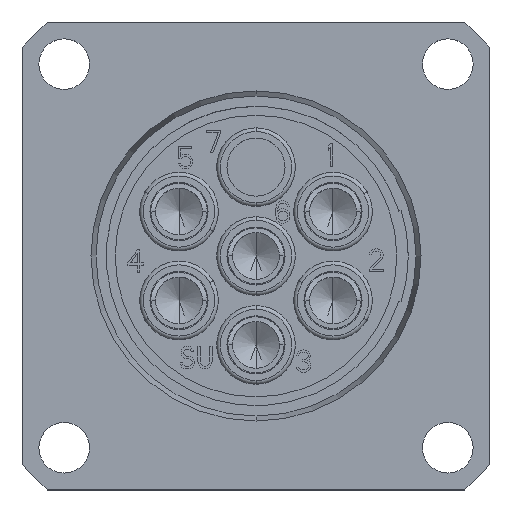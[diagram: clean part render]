
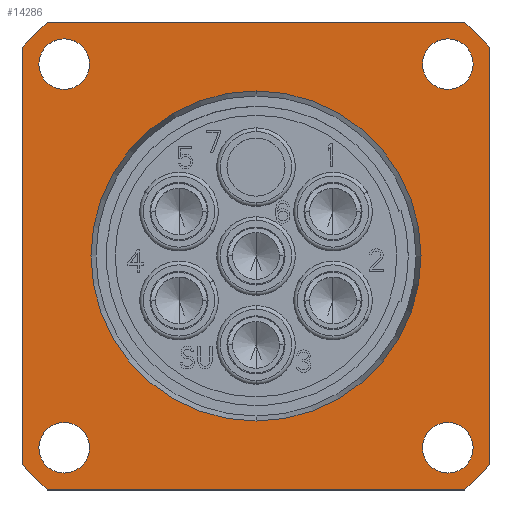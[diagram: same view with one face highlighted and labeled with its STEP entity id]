
A CAD part, top view. The second image highlights one B-rep face of the part: STEP entity #14286.
In plain terms, the highlighted planar face has unit normal (0, 0, 1).
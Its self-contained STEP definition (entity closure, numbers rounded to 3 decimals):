
#47=CARTESIAN_POINT('',(0.,0.,8.2));
#48=DIRECTION('',(0.,0.,-1.));
#49=DIRECTION('',(0.,-1.,0.));
#50=AXIS2_PLACEMENT_3D('',#47,#48,#49);
#57=DIRECTION('',(-1.,0.,0.));
#58=VECTOR('',#57,22.299);
#59=CARTESIAN_POINT('',(11.15,12.5,8.2));
#60=LINE('',#59,#58);
#61=DIRECTION('',(0.,1.,0.));
#62=VECTOR('',#61,22.299);
#63=CARTESIAN_POINT('',(12.5,-11.15,8.2));
#64=LINE('',#63,#62);
#65=DIRECTION('',(1.,0.,0.));
#66=VECTOR('',#65,22.299);
#67=CARTESIAN_POINT('',(-11.15,-12.5,8.2));
#68=LINE('',#67,#66);
#69=DIRECTION('',(0.,-1.,0.));
#70=VECTOR('',#69,22.299);
#71=CARTESIAN_POINT('',(-12.5,11.15,8.2));
#72=LINE('',#71,#70);
#73=CARTESIAN_POINT('',(10.25,10.25,8.2));
#74=DIRECTION('',(0.,0.,1.));
#75=DIRECTION('',(1.,0.,0.));
#76=AXIS2_PLACEMENT_3D('',#73,#74,#75);
#78=CARTESIAN_POINT('',(10.25,10.25,8.2));
#79=DIRECTION('',(0.,0.,1.));
#80=DIRECTION('',(-1.,0.,0.));
#81=AXIS2_PLACEMENT_3D('',#78,#79,#80);
#83=CARTESIAN_POINT('',(-10.25,10.25,8.2));
#84=DIRECTION('',(0.,0.,1.));
#85=DIRECTION('',(1.,0.,0.));
#86=AXIS2_PLACEMENT_3D('',#83,#84,#85);
#88=CARTESIAN_POINT('',(-10.25,10.25,8.2));
#89=DIRECTION('',(0.,0.,1.));
#90=DIRECTION('',(-1.,0.,0.));
#91=AXIS2_PLACEMENT_3D('',#88,#89,#90);
#93=CARTESIAN_POINT('',(10.25,-10.25,8.2));
#94=DIRECTION('',(0.,0.,1.));
#95=DIRECTION('',(1.,0.,0.));
#96=AXIS2_PLACEMENT_3D('',#93,#94,#95);
#98=CARTESIAN_POINT('',(10.25,-10.25,8.2));
#99=DIRECTION('',(0.,0.,1.));
#100=DIRECTION('',(-1.,0.,0.));
#101=AXIS2_PLACEMENT_3D('',#98,#99,#100);
#103=CARTESIAN_POINT('',(-10.25,-10.25,8.2));
#104=DIRECTION('',(0.,0.,1.));
#105=DIRECTION('',(1.,0.,0.));
#106=AXIS2_PLACEMENT_3D('',#103,#104,#105);
#108=CARTESIAN_POINT('',(-10.25,-10.25,8.2));
#109=DIRECTION('',(0.,0.,1.));
#110=DIRECTION('',(-1.,0.,0.));
#111=AXIS2_PLACEMENT_3D('',#108,#109,#110);
#121=CARTESIAN_POINT('',(0.,0.,8.2));
#122=DIRECTION('',(0.,0.,-1.));
#123=DIRECTION('',(-0.746,0.666,0.));
#124=AXIS2_PLACEMENT_3D('',#121,#122,#123);
#134=CARTESIAN_POINT('',(0.,0.,8.2));
#135=DIRECTION('',(0.,0.,-1.));
#136=DIRECTION('',(-0.666,-0.746,0.));
#137=AXIS2_PLACEMENT_3D('',#134,#135,#136);
#147=CARTESIAN_POINT('',(0.,0.,8.2));
#148=DIRECTION('',(0.,0.,1.));
#149=DIRECTION('',(0.666,-0.746,0.));
#150=AXIS2_PLACEMENT_3D('',#147,#148,#149);
#160=CARTESIAN_POINT('',(0.,0.,8.2));
#161=DIRECTION('',(0.,0.,1.));
#162=DIRECTION('',(0.746,0.666,0.));
#163=AXIS2_PLACEMENT_3D('',#160,#161,#162);
#5422=CARTESIAN_POINT('',(0.,0.,8.2));
#5423=DIRECTION('',(0.,0.,1.));
#5424=DIRECTION('',(0.,-1.,0.));
#5425=AXIS2_PLACEMENT_3D('',#5422,#5423,#5424);
#11059=CARTESIAN_POINT('',(11.15,12.5,8.2));
#11060=CARTESIAN_POINT('',(-11.15,12.5,8.2));
#11061=VERTEX_POINT('',#11059);
#11062=VERTEX_POINT('',#11060);
#11063=CARTESIAN_POINT('',(-12.5,11.15,8.2));
#11064=CARTESIAN_POINT('',(-12.5,-11.15,8.2));
#11065=VERTEX_POINT('',#11063);
#11066=VERTEX_POINT('',#11064);
#11067=CARTESIAN_POINT('',(-11.15,-12.5,8.2));
#11068=CARTESIAN_POINT('',(11.15,-12.5,8.2));
#11069=VERTEX_POINT('',#11067);
#11070=VERTEX_POINT('',#11068);
#11071=CARTESIAN_POINT('',(12.5,-11.15,8.2));
#11072=CARTESIAN_POINT('',(12.5,11.15,8.2));
#11073=VERTEX_POINT('',#11071);
#11074=VERTEX_POINT('',#11072);
#11075=CARTESIAN_POINT('',(11.6,10.25,8.2));
#11076=CARTESIAN_POINT('',(8.9,10.25,8.2));
#11077=VERTEX_POINT('',#11075);
#11078=VERTEX_POINT('',#11076);
#11083=CARTESIAN_POINT('',(-8.9,10.25,8.2));
#11084=CARTESIAN_POINT('',(-11.6,10.25,8.2));
#11085=VERTEX_POINT('',#11083);
#11086=VERTEX_POINT('',#11084);
#11091=CARTESIAN_POINT('',(11.6,-10.25,8.2));
#11092=CARTESIAN_POINT('',(8.9,-10.25,8.2));
#11093=VERTEX_POINT('',#11091);
#11094=VERTEX_POINT('',#11092);
#11099=CARTESIAN_POINT('',(-8.9,-10.25,8.2));
#11100=CARTESIAN_POINT('',(-11.6,-10.25,8.2));
#11101=VERTEX_POINT('',#11099);
#11102=VERTEX_POINT('',#11100);
#11127=CARTESIAN_POINT('',(0.,-8.818,8.2));
#11128=CARTESIAN_POINT('',(0.,8.818,8.2));
#11129=VERTEX_POINT('',#11127);
#11130=VERTEX_POINT('',#11128);
#14234=CARTESIAN_POINT('',(0.,0.,8.2));
#14235=DIRECTION('',(0.,0.,1.));
#14236=DIRECTION('',(0.,1.,0.));
#14237=AXIS2_PLACEMENT_3D('',#14234,#14235,#14236);
#14238=PLANE('',#14237);
#14240=ORIENTED_EDGE('',*,*,#14239,.F.);
#14242=ORIENTED_EDGE('',*,*,#14241,.F.);
#14244=ORIENTED_EDGE('',*,*,#14243,.F.);
#14246=ORIENTED_EDGE('',*,*,#14245,.F.);
#14248=ORIENTED_EDGE('',*,*,#14247,.F.);
#14250=ORIENTED_EDGE('',*,*,#14249,.T.);
#14252=ORIENTED_EDGE('',*,*,#14251,.F.);
#14254=ORIENTED_EDGE('',*,*,#14253,.T.);
#14255=EDGE_LOOP('',(#14240,#14242,#14244,#14246,#14248,#14250,#14252,#14254));
#14256=FACE_OUTER_BOUND('',#14255,.F.);
#14257=ORIENTED_EDGE('',*,*,#14224,.F.);
#14259=ORIENTED_EDGE('',*,*,#14258,.T.);
#14260=EDGE_LOOP('',(#14257,#14259));
#14261=FACE_BOUND('',#14260,.F.);
#14263=ORIENTED_EDGE('',*,*,#14262,.T.);
#14265=ORIENTED_EDGE('',*,*,#14264,.T.);
#14266=EDGE_LOOP('',(#14263,#14265));
#14267=FACE_BOUND('',#14266,.F.);
#14269=ORIENTED_EDGE('',*,*,#14268,.T.);
#14271=ORIENTED_EDGE('',*,*,#14270,.T.);
#14272=EDGE_LOOP('',(#14269,#14271));
#14273=FACE_BOUND('',#14272,.F.);
#14275=ORIENTED_EDGE('',*,*,#14274,.T.);
#14277=ORIENTED_EDGE('',*,*,#14276,.T.);
#14278=EDGE_LOOP('',(#14275,#14277));
#14279=FACE_BOUND('',#14278,.F.);
#14281=ORIENTED_EDGE('',*,*,#14280,.T.);
#14283=ORIENTED_EDGE('',*,*,#14282,.T.);
#14284=EDGE_LOOP('',(#14281,#14283));
#14285=FACE_BOUND('',#14284,.F.);
#14286=ADVANCED_FACE('',(#14256,#14261,#14267,#14273,#14279,#14285),#14238,.T.);
#51=CIRCLE('',#50,8.818);
#77=CIRCLE('',#76,1.35);
#82=CIRCLE('',#81,1.35);
#87=CIRCLE('',#86,1.35);
#92=CIRCLE('',#91,1.35);
#97=CIRCLE('',#96,1.35);
#102=CIRCLE('',#101,1.35);
#107=CIRCLE('',#106,1.35);
#112=CIRCLE('',#111,1.35);
#125=CIRCLE('',#124,16.75);
#138=CIRCLE('',#137,16.75);
#151=CIRCLE('',#150,16.75);
#164=CIRCLE('',#163,16.75);
#5426=CIRCLE('',#5425,8.818);
#14224=EDGE_CURVE('',#11129,#11130,#51,.T.);
#14239=EDGE_CURVE('',#11061,#11062,#60,.T.);
#14241=EDGE_CURVE('',#11074,#11061,#164,.T.);
#14243=EDGE_CURVE('',#11073,#11074,#64,.T.);
#14245=EDGE_CURVE('',#11070,#11073,#151,.T.);
#14247=EDGE_CURVE('',#11069,#11070,#68,.T.);
#14249=EDGE_CURVE('',#11069,#11066,#138,.T.);
#14251=EDGE_CURVE('',#11065,#11066,#72,.T.);
#14253=EDGE_CURVE('',#11065,#11062,#125,.T.);
#14258=EDGE_CURVE('',#11129,#11130,#5426,.T.);
#14262=EDGE_CURVE('',#11077,#11078,#77,.T.);
#14264=EDGE_CURVE('',#11078,#11077,#82,.T.);
#14268=EDGE_CURVE('',#11085,#11086,#87,.T.);
#14270=EDGE_CURVE('',#11086,#11085,#92,.T.);
#14274=EDGE_CURVE('',#11093,#11094,#97,.T.);
#14276=EDGE_CURVE('',#11094,#11093,#102,.T.);
#14280=EDGE_CURVE('',#11101,#11102,#107,.T.);
#14282=EDGE_CURVE('',#11102,#11101,#112,.T.);
